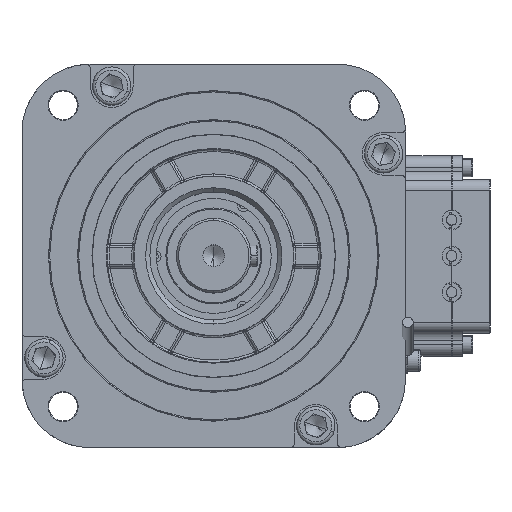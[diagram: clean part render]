
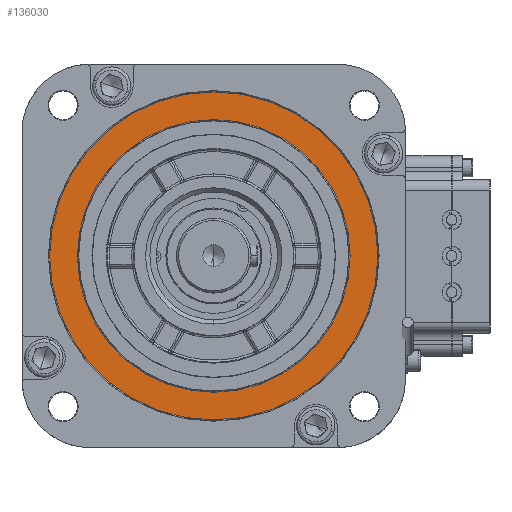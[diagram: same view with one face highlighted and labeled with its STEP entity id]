
A CAD part, top view. The second image highlights one B-rep face of the part: STEP entity #136030.
In plain terms, the highlighted planar face has unit normal (0, 0, 1).
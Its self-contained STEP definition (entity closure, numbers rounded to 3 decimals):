
#6812 = PLANE ( 'NONE',  #95257 ) ;
#7452 = CARTESIAN_POINT ( 'NONE',  ( -29.994, -64., 21.883 ) ) ;
#8015 = DIRECTION ( 'NONE',  ( 0., 0., 1. ) ) ;
#9533 = DIRECTION ( 'NONE',  ( 0., 0., -1. ) ) ;
#10751 = VERTEX_POINT ( 'NONE', #88848 ) ;
#19850 = DIRECTION ( 'NONE',  ( 0., 1., 0. ) ) ;
#23294 = ORIENTED_EDGE ( 'NONE', *, *, #68435, .T. ) ;
#30687 = EDGE_LOOP ( 'NONE', ( #143720, #74917 ) ) ;
#31454 = CARTESIAN_POINT ( 'NONE',  ( -29.994, 64., 21.883 ) ) ;
#34727 = DIRECTION ( 'NONE',  ( 0., 0., 1. ) ) ;
#35209 = DIRECTION ( 'NONE',  ( 0., 1., 0. ) ) ;
#45787 = EDGE_CURVE ( 'NONE', #47190, #10751, #126098, .T. ) ;
#47190 = VERTEX_POINT ( 'NONE', #53128 ) ;
#53128 = CARTESIAN_POINT ( 'NONE',  ( -29.994, 77., 21.883 ) ) ;
#53699 = DIRECTION ( 'NONE',  ( 0., 1., 0. ) ) ;
#56134 = DIRECTION ( 'NONE',  ( 0., 1., 0. ) ) ;
#60393 = AXIS2_PLACEMENT_3D ( 'NONE', #102034, #135773, #35209 ) ;
#60886 = EDGE_LOOP ( 'NONE', ( #23294, #95188 ) ) ;
#62831 = AXIS2_PLACEMENT_3D ( 'NONE', #82455, #34727, #136011 ) ;
#65449 = FACE_OUTER_BOUND ( 'NONE', #30687, .T. ) ;
#67384 = CIRCLE ( 'NONE', #60393, 64. ) ;
#68435 = EDGE_CURVE ( 'NONE', #102272, #101904, #126466, .T. ) ;
#74775 = CARTESIAN_POINT ( 'NONE',  ( -29.994, 0., 21.883 ) ) ;
#74917 = ORIENTED_EDGE ( 'NONE', *, *, #120436, .T. ) ;
#82455 = CARTESIAN_POINT ( 'NONE',  ( -29.994, 0., 21.883 ) ) ;
#84629 = DIRECTION ( 'NONE',  ( 0., 0., -1. ) ) ;
#88848 = CARTESIAN_POINT ( 'NONE',  ( -29.994, -77., 21.883 ) ) ;
#93070 = CIRCLE ( 'NONE', #118883, 77. ) ;
#95188 = ORIENTED_EDGE ( 'NONE', *, *, #121355, .T. ) ;
#95257 = AXIS2_PLACEMENT_3D ( 'NONE', #110246, #84629, #53699 ) ;
#101904 = VERTEX_POINT ( 'NONE', #7452 ) ;
#102034 = CARTESIAN_POINT ( 'NONE',  ( -29.994, 0., 21.883 ) ) ;
#102272 = VERTEX_POINT ( 'NONE', #31454 ) ;
#107722 = AXIS2_PLACEMENT_3D ( 'NONE', #120407, #9533, #19850 ) ;
#110246 = CARTESIAN_POINT ( 'NONE',  ( 47.506, 0., 21.883 ) ) ;
#118883 = AXIS2_PLACEMENT_3D ( 'NONE', #74775, #8015, #56134 ) ;
#120407 = CARTESIAN_POINT ( 'NONE',  ( -29.994, 0., 21.883 ) ) ;
#120436 = EDGE_CURVE ( 'NONE', #10751, #47190, #93070, .T. ) ;
#121355 = EDGE_CURVE ( 'NONE', #101904, #102272, #67384, .T. ) ;
#126098 = CIRCLE ( 'NONE', #62831, 77. ) ;
#126466 = CIRCLE ( 'NONE', #107722, 64. ) ;
#135773 = DIRECTION ( 'NONE',  ( 0., 0., -1. ) ) ;
#136011 = DIRECTION ( 'NONE',  ( 0., 1., 0. ) ) ;
#136030 = ADVANCED_FACE ( 'NONE', ( #65449, #141142 ), #6812, .F. ) ;
#141142 = FACE_BOUND ( 'NONE', #60886, .T. ) ;
#143720 = ORIENTED_EDGE ( 'NONE', *, *, #45787, .T. ) ;
